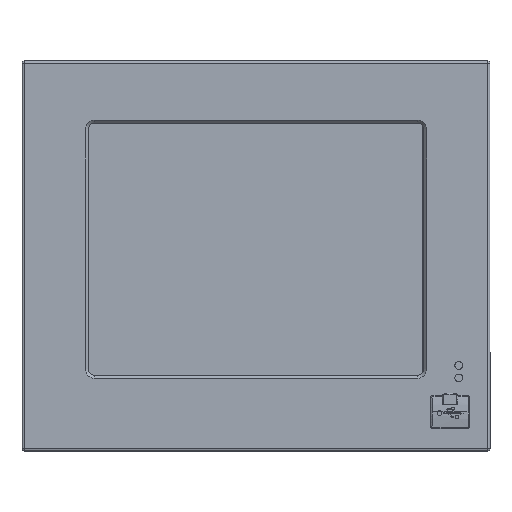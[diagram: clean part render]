
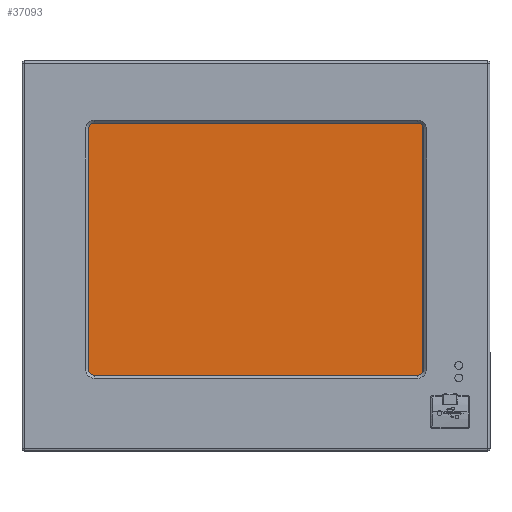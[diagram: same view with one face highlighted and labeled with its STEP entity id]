
A CAD part, top view. The second image highlights one B-rep face of the part: STEP entity #37093.
In plain terms, the highlighted planar face has unit normal (0, 0, 1).
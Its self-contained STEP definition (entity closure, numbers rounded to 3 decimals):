
#496 = DIRECTION ( 'NONE',  ( 0., -1., 0. ) ) ;
#786 = DIRECTION ( 'NONE',  ( -1., 0., 0. ) ) ;
#4757 = CARTESIAN_POINT ( 'NONE',  ( 12.75, 138., 2.1 ) ) ;
#5166 = PLANE ( 'NONE',  #11703 ) ;
#5282 = VERTEX_POINT ( 'NONE', #4757 ) ;
#5962 = VECTOR ( 'NONE', #786, 1000. ) ;
#7227 = CARTESIAN_POINT ( 'NONE',  ( 184.25, 138., 2.1 ) ) ;
#8849 = CARTESIAN_POINT ( 'NONE',  ( 184.25, 138., 2.1 ) ) ;
#10546 = LINE ( 'NONE', #8849, #37923 ) ;
#11652 = VERTEX_POINT ( 'NONE', #7227 ) ;
#11703 = AXIS2_PLACEMENT_3D ( 'NONE', #20145, #46175, #23860 ) ;
#12606 = DIRECTION ( 'NONE',  ( 0., 1., 0. ) ) ;
#13867 = VECTOR ( 'NONE', #496, 1000. ) ;
#20145 = CARTESIAN_POINT ( 'NONE',  ( 12.75, 8., 2.1 ) ) ;
#20802 = VECTOR ( 'NONE', #30386, 1000. ) ;
#22605 = LINE ( 'NONE', #22758, #13867 ) ;
#22758 = CARTESIAN_POINT ( 'NONE',  ( 12.75, 138., 2.1 ) ) ;
#23860 = DIRECTION ( 'NONE',  ( 1., 0., 0. ) ) ;
#25692 = EDGE_CURVE ( 'NONE', #40389, #11652, #10546, .T. ) ;
#26902 = LINE ( 'NONE', #41615, #5962 ) ;
#30386 = DIRECTION ( 'NONE',  ( 1., 0., 0. ) ) ;
#30543 = CARTESIAN_POINT ( 'NONE',  ( 12.75, 8., 2.1 ) ) ;
#30658 = LINE ( 'NONE', #30543, #20802 ) ;
#31431 = VERTEX_POINT ( 'NONE', #41844 ) ;
#31566 = ORIENTED_EDGE ( 'NONE', *, *, #34774, .T. ) ;
#32045 = EDGE_CURVE ( 'NONE', #11652, #5282, #26902, .T. ) ;
#33415 = ORIENTED_EDGE ( 'NONE', *, *, #32045, .T. ) ;
#34279 = EDGE_LOOP ( 'NONE', ( #42957, #31566, #37209, #33415 ) ) ;
#34774 = EDGE_CURVE ( 'NONE', #31431, #40389, #30658, .T. ) ;
#35520 = FACE_OUTER_BOUND ( 'NONE', #34279, .T. ) ;
#37093 = ADVANCED_FACE ( 'NONE', ( #35520 ), #5166, .T. ) ;
#37209 = ORIENTED_EDGE ( 'NONE', *, *, #25692, .T. ) ;
#37923 = VECTOR ( 'NONE', #12606, 1000. ) ;
#40389 = VERTEX_POINT ( 'NONE', #48194 ) ;
#41615 = CARTESIAN_POINT ( 'NONE',  ( 12.75, 138., 2.1 ) ) ;
#41844 = CARTESIAN_POINT ( 'NONE',  ( 12.75, 8., 2.1 ) ) ;
#42957 = ORIENTED_EDGE ( 'NONE', *, *, #43334, .T. ) ;
#43334 = EDGE_CURVE ( 'NONE', #5282, #31431, #22605, .T. ) ;
#46175 = DIRECTION ( 'NONE',  ( 0., 0., 1. ) ) ;
#48194 = CARTESIAN_POINT ( 'NONE',  ( 184.25, 8., 2.1 ) ) ;
